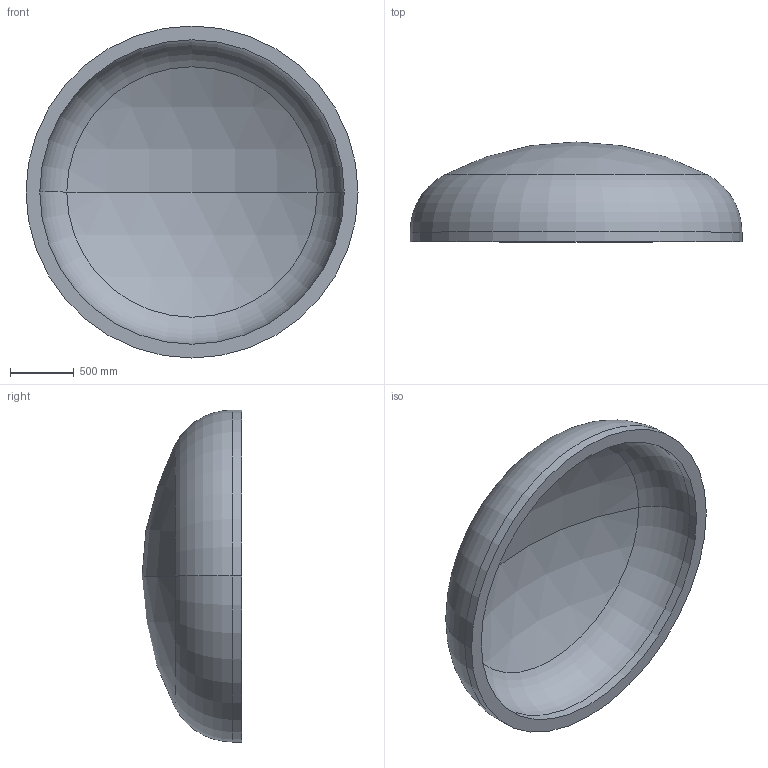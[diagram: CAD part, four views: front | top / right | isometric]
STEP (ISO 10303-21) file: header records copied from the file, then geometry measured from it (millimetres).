
FILE_DESCRIPTION (( 'STEP AP203' ), '1' );
FILE_NAME ('DIN 28013 Korbbogenform_-_Boden DIN 28013 - 2600 x 75 - I - s=108.step', '2016-07-01T16:33:29', ( '' ), ( '' ), 'SwSTEP 2.0', 'SolidWorks 2013', '' );
FILE_SCHEMA (( 'CONFIG_CONTROL_DESIGN' ));
Length unit declared in the file: millimetre
Products named in the file (1): DIN 28013 Korbbogenform_-_Boden DIN 28013 - 2600 x 75 - I - s=108
Bounding box: 2600 x 781.4 x 2600 mm (x, y, z)
Volume: 815855847.6 mm3; surface area: 15978381.7 mm2
Topology: 1 solids, 1 shells, 13 faces, 24 edges, 14 vertices
Faces by surface type: torus 4, cylinder 4, sphere 4, plane 1
Entity records: 407 total; most frequent: DIRECTION 72, CARTESIAN_POINT 52, ORIENTED_EDGE 48, AXIS2_PLACEMENT_3D 34, EDGE_CURVE 24, CIRCLE 20, VERTEX_POINT 14, EDGE_LOOP 14
